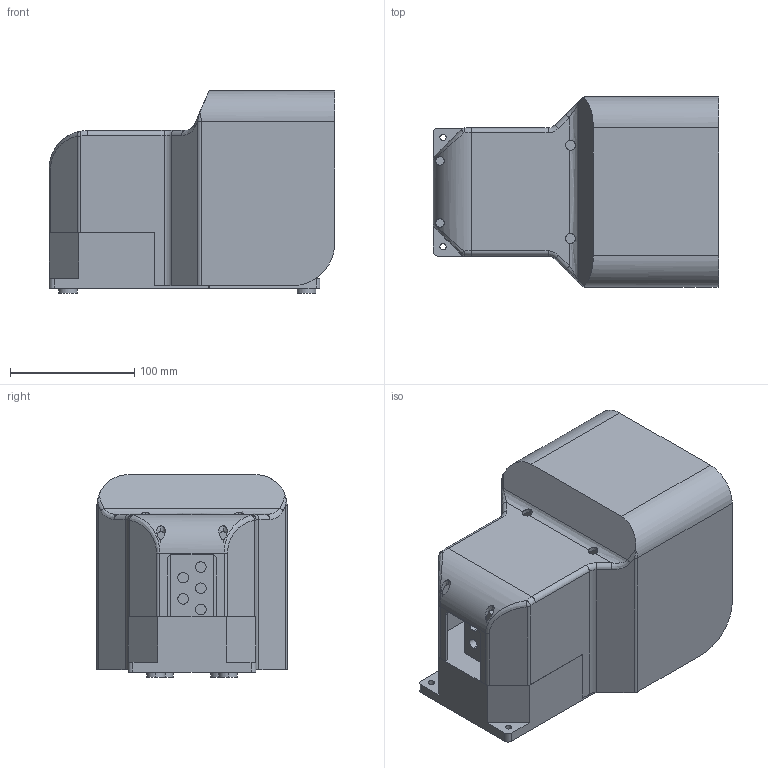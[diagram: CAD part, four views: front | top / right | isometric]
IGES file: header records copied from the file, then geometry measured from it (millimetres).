
Global section: file name: No Iges File Name specified; native system: AutoDesk Inventor R11.0; preprocessor: AutoDesk Inventor Iges Exporter R11.0; author: No Author specified; organization: No Organization specified; date: 20061219.114320; units: millimetre
Bounding box: 230 x 153 x 163 mm (x, y, z)
Volume: 1040730.3 mm3; surface area: 293440.2 mm2
Topology: 2 solids, 2 shells, 194 faces, 514 edges, 330 vertices
Faces by surface type: plane 84, cylinder 38, bspline 38, revolution 28, torus 4, sphere 2
